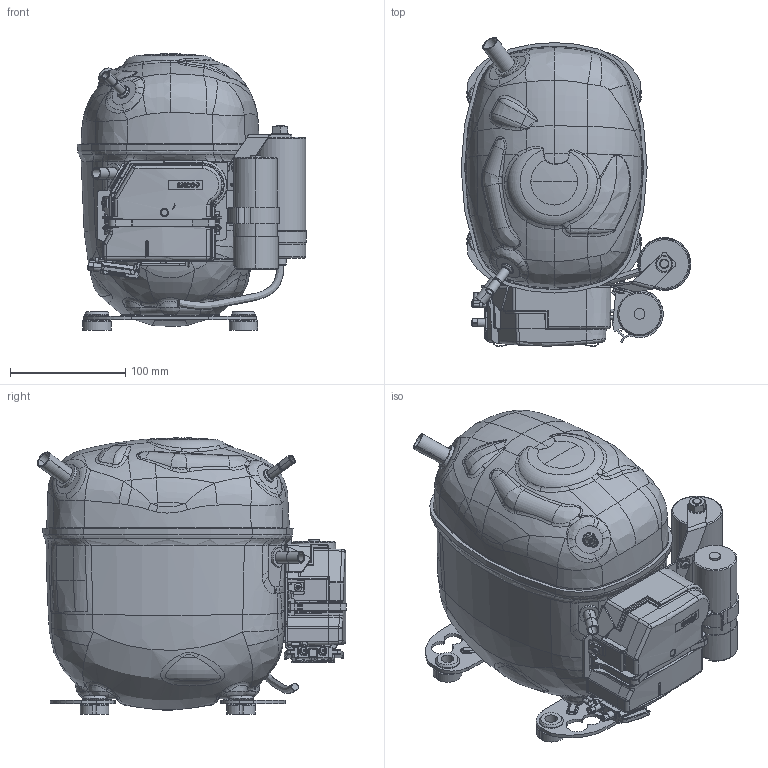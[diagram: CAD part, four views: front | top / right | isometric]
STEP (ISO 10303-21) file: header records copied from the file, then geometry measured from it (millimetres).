
FILE_DESCRIPTION((''),'2;1');
FILE_NAME('104B1470_104B1408_NONE_ASM','2024-09-16T14:07:16',('dehc5875'),(''),'CREO PARAMETRIC BY PTC INC, 2022162','CREO PARAMETRIC BY PTC INC, 2022162','');
FILE_SCHEMA(('CONFIG_CONTROL_DESIGN'));
Length unit declared in the file: millimetre
Products named in the file (7): 104B1470_104B1408_NON_SW0001_2; 104B1470_104B1408_NON_SW0001_3; 104B1470_104B1408_NON_SW0001_4; 104B1470_104B1408_NON_SW0001_5; 104B1470_104B1408_NON_SW0001_1_ASM; 0000323970; 104B1470_104B1408_NONE_ASM
Assembly tree (9 placements, depth 3):
  104B1470_104B1408_NONE_ASM
    104B1470_104B1408_NON_SW0001_1_ASM
      104B1470_104B1408_NON_SW0001_2
      104B1470_104B1408_NON_SW0001_3
      104B1470_104B1408_NON_SW0001_4
      104B1470_104B1408_NON_SW0001_5
    0000323970  x4
Bounding box: 199.02 x 267.75 x 239.65 mm (x, y, z)
Volume: 887628.8 mm3; surface area: 483845.9 mm2
Topology: 8 solids, 8 shells, 3701 faces, 9942 edges, 6204 vertices
Faces by surface type: plane 1404, cylinder 895, bspline 686, torus 306, cone 265, sphere 101, extrusion 26, revolution 18
Entity records: 155839 total; most frequent: CARTESIAN_POINT 70852, ORIENTED_EDGE 19234, DIRECTION 15777, EDGE_CURVE 9617, VERTEX_POINT 6078, AXIS2_PLACEMENT_3D 5622, VECTOR 4515, LINE 4489
